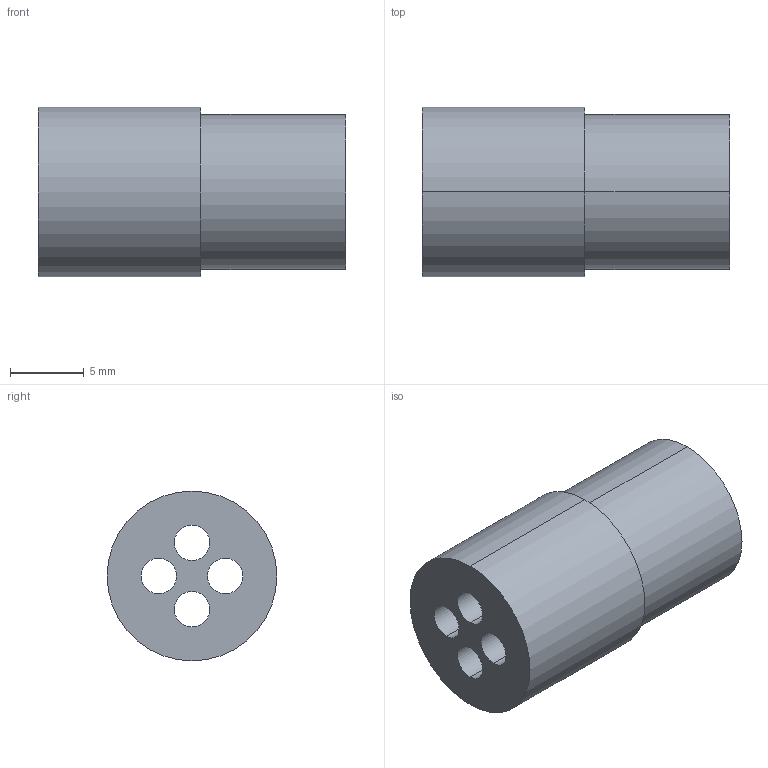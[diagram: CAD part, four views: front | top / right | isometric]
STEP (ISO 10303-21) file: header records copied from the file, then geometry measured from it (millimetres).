
FILE_DESCRIPTION(('Creo Elements/Direct Modeling STEP Export'),'2;1');
FILE_NAME('H05-0029-CL907-00_G08-224.stp','2023-02-22T 9:36:01',(''),(''),'Creo Elements/Direct Modeling STEP processor for AP214 (Solid Model)','Creo Elements/Direct Modeling 20.3B 05-Dec-2020 (C) Parametric Technology GmbH','');
FILE_SCHEMA(('AUTOMOTIVE_DESIGN { 1 0 10303 214 1 1 1 1 }'));
Length unit declared in the file: millimetre
Products named in the file (2): G08-224
Assembly tree (1 placements, depth 2):
  G08-224
    G08-224
Bounding box: 20.8 x 11.5 x 11.5 mm (x, y, z)
Volume: 1614.8 mm3; surface area: 1519.5 mm2
Topology: 1 solids, 1 shells, 15 faces, 36 edges, 24 vertices
Faces by surface type: cylinder 12, plane 3
Entity records: 455 total; most frequent: ORIENTED_EDGE 72, DIRECTION 70, CARTESIAN_POINT 65, EDGE_CURVE 36, AXIS2_PLACEMENT_3D 29, VERTEX_POINT 24, EDGE_LOOP 24, FACE_OUTER_BOUND 15
